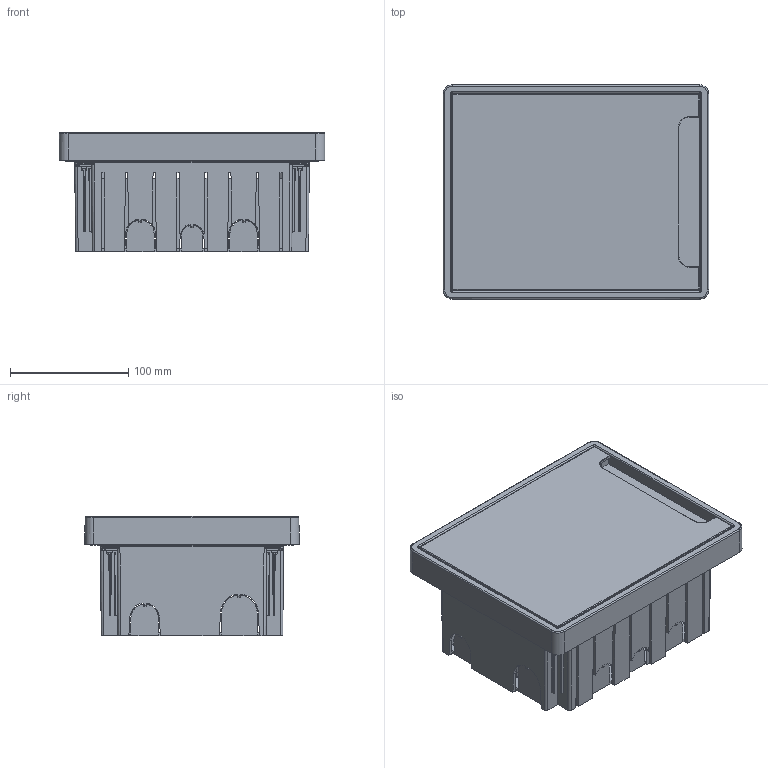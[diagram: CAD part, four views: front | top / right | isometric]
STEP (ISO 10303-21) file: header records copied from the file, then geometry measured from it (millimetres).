
FILE_DESCRIPTION (( 'STEP AP203' ), '1' );
FILE_NAME ('F08B1WD 糂琲籵褌隆 08.STEP', '2025-10-13T06:56:44', ( '' ), ( '' ), 'SwSTEP 2.0', 'SolidWorks 2022', '' );
FILE_SCHEMA (( 'CONFIG_CONTROL_DESIGN' ));
Products named in the file (6): TPA.08.0161.00.01.0 simple; F08B1WD встраиваемый 08; TPA.08.0102.00.05.0 simple; RB.2992.00.00.0 simple_-03; TPA.08.0102.00.04.0 simple; TPA.08.0162.00.03.0
Assembly tree (6 placements, depth 2):
  F08B1WD встраиваемый 08
    TPA.08.0102.00.04.0 simple
    TPA.08.0102.00.05.0 simple
    TPA.08.0161.00.01.0 simple
    TPA.08.0162.00.03.0  x2
    RB.2992.00.00.0 simple_-03
Bounding box: 224.4 x 180.9 x 100.5 mm (x, y, z)
Volume: 633675.9 mm3; surface area: 419502.1 mm2
Topology: 6 solids, 8 shells, 2293 faces, 6172 edges, 3825 vertices
Faces by surface type: plane 1075, cylinder 704, bspline 304, cone 82, torus 74, sphere 54
Full cylindrical faces by diameter (mm): 3 x2, 4 x4, 4.2 x2, 4.63 x4, 6 x2, 9 x2
Entity records: 80964 total; most frequent: CARTESIAN_POINT 33311, ORIENTED_EDGE 10860, DIRECTION 8437, EDGE_CURVE 5430, VERTEX_POINT 3419, VECTOR 3377, LINE 3377, AXIS2_PLACEMENT_3D 2530
